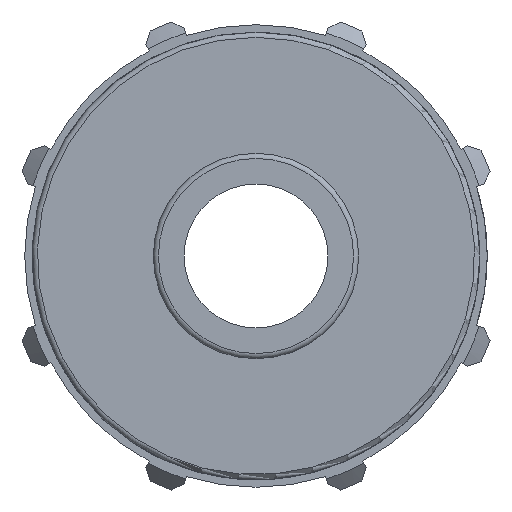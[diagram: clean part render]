
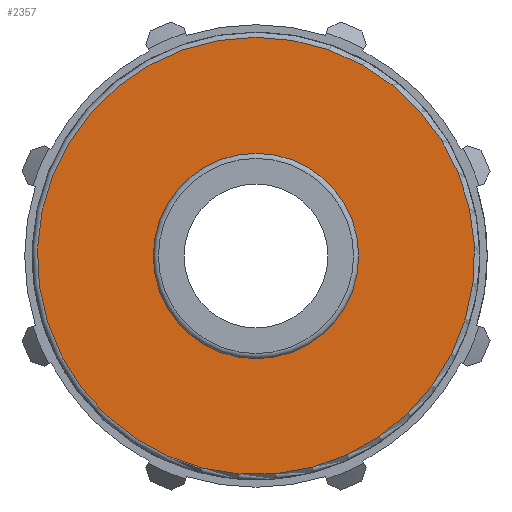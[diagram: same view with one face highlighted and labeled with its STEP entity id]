
A CAD part, left-side view. The second image highlights one B-rep face of the part: STEP entity #2357.
In plain terms, the highlighted planar face has unit normal (-1, 0, 0).
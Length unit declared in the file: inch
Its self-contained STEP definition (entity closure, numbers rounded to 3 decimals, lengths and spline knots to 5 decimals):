
#459=FACE_BOUND('',#683,.T.);
#472=PLANE('',#2549);
#551=FACE_OUTER_BOUND('',#682,.T.);
#682=EDGE_LOOP('',(#1626,#1627));
#683=EDGE_LOOP('',(#1628,#1629));
#797=CIRCLE('',#2489,0.52049);
#798=CIRCLE('',#2490,0.52049);
#835=CIRCLE('',#2547,1.10778);
#836=CIRCLE('',#2548,1.10778);
#920=VERTEX_POINT('',#3411);
#921=VERTEX_POINT('',#3412);
#987=VERTEX_POINT('',#3801);
#988=VERTEX_POINT('',#3803);
#1158=EDGE_CURVE('',#920,#921,#797,.T.);
#1159=EDGE_CURVE('',#921,#920,#798,.T.);
#1246=EDGE_CURVE('',#987,#988,#835,.T.);
#1247=EDGE_CURVE('',#988,#987,#836,.T.);
#1626=ORIENTED_EDGE('',*,*,#1247,.F.);
#1627=ORIENTED_EDGE('',*,*,#1246,.F.);
#1628=ORIENTED_EDGE('',*,*,#1158,.T.);
#1629=ORIENTED_EDGE('',*,*,#1159,.T.);
#2357=ADVANCED_FACE('',(#551,#459),#472,.T.);
#2489=AXIS2_PLACEMENT_3D('',#3413,#2750,#2751);
#2490=AXIS2_PLACEMENT_3D('',#3414,#2752,#2753);
#2547=AXIS2_PLACEMENT_3D('',#3804,#2892,#2893);
#2548=AXIS2_PLACEMENT_3D('',#3805,#2894,#2895);
#2549=AXIS2_PLACEMENT_3D('',#3806,#2896,#2897);
#2750=DIRECTION('center_axis',(1.,0.,0.));
#2751=DIRECTION('ref_axis',(0.,0.,-1.));
#2752=DIRECTION('center_axis',(1.,0.,0.));
#2753=DIRECTION('ref_axis',(0.,0.,-1.));
#2892=DIRECTION('center_axis',(1.,0.,0.));
#2893=DIRECTION('ref_axis',(0.,-0.552,0.834));
#2894=DIRECTION('center_axis',(1.,0.,0.));
#2895=DIRECTION('ref_axis',(0.,-0.552,0.834));
#2896=DIRECTION('center_axis',(-1.,0.,0.));
#2897=DIRECTION('ref_axis',(0.,0.,1.));
#3411=CARTESIAN_POINT('',(0.71,0.52049,0.));
#3412=CARTESIAN_POINT('',(0.71,-0.52049,0.));
#3413=CARTESIAN_POINT('Origin',(0.71,0.,0.));
#3414=CARTESIAN_POINT('Origin',(0.71,0.,0.));
#3801=CARTESIAN_POINT('',(0.71,0.,1.10778));
#3803=CARTESIAN_POINT('',(0.71,0.61118,-0.92392));
#3804=CARTESIAN_POINT('Origin',(0.71,0.,0.));
#3805=CARTESIAN_POINT('Origin',(0.71,0.,0.));
#3806=CARTESIAN_POINT('Origin',(0.71,1.134,0.));
